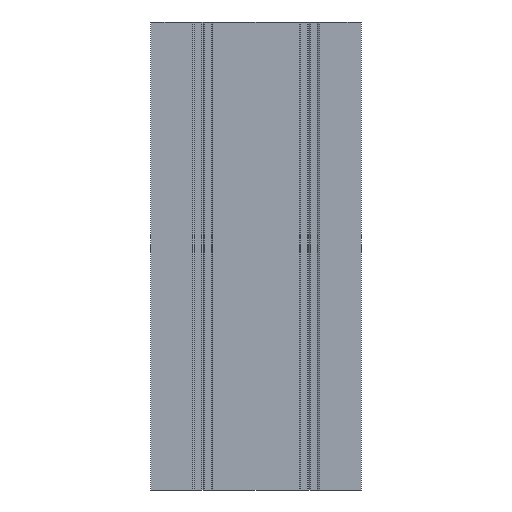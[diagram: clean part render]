
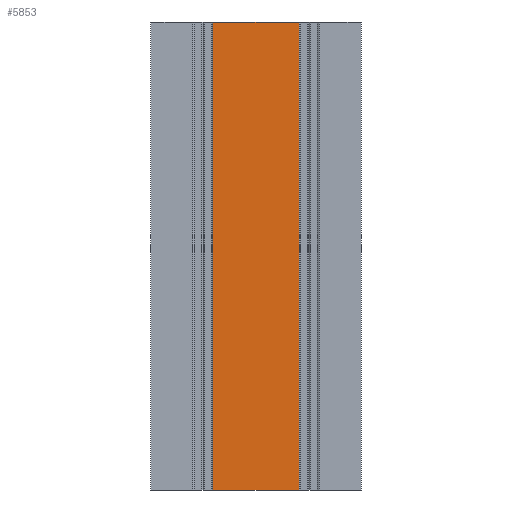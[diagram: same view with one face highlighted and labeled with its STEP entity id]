
A CAD part, left-side view. The second image highlights one B-rep face of the part: STEP entity #5853.
In plain terms, the highlighted planar face has unit normal (-1, 0, 0).
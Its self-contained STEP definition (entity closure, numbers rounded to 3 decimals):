
#352=FACE_OUTER_BOUND('',#644,.T.);
#644=EDGE_LOOP('',(#4944,#4945,#4946,#4947));
#942=LINE('',#8092,#1558);
#1158=LINE('',#8763,#1774);
#1394=LINE('',#9403,#2010);
#1475=LINE('',#9560,#2091);
#1558=VECTOR('',#6468,10.);
#1774=VECTOR('',#6942,10.);
#2010=VECTOR('',#7602,10.);
#2091=VECTOR('',#7835,10.);
#2180=VERTEX_POINT('',#8089);
#2181=VERTEX_POINT('',#8091);
#2506=VERTEX_POINT('',#8760);
#2507=VERTEX_POINT('',#8762);
#2732=EDGE_CURVE('',#2180,#2181,#942,.T.);
#3067=EDGE_CURVE('',#2507,#2506,#1158,.T.);
#3390=EDGE_CURVE('',#2506,#2181,#1394,.T.);
#3471=EDGE_CURVE('',#2180,#2507,#1475,.T.);
#4944=ORIENTED_EDGE('',*,*,#3471,.T.);
#4945=ORIENTED_EDGE('',*,*,#3067,.T.);
#4946=ORIENTED_EDGE('',*,*,#3390,.T.);
#4947=ORIENTED_EDGE('',*,*,#2732,.F.);
#5311=PLANE('',#6366);
#5853=ADVANCED_FACE('',(#352),#5311,.T.);
#6366=AXIS2_PLACEMENT_3D('',#9571,#7852,#7853);
#6468=DIRECTION('',(0.,1.,0.));
#6942=DIRECTION('',(0.,1.,0.));
#7602=DIRECTION('',(0.,0.,-1.));
#7835=DIRECTION('',(0.,0.,1.));
#7852=DIRECTION('center_axis',(-1.,0.,0.));
#7853=DIRECTION('ref_axis',(0.,0.,1.));
#8089=CARTESIAN_POINT('',(-22.5,-18.587,0.));
#8091=CARTESIAN_POINT('',(-22.5,18.587,0.));
#8092=CARTESIAN_POINT('',(-22.5,-22.5,0.));
#8760=CARTESIAN_POINT('',(-22.5,18.587,200.));
#8762=CARTESIAN_POINT('',(-22.5,-18.587,200.));
#8763=CARTESIAN_POINT('',(-22.5,-22.5,200.));
#9403=CARTESIAN_POINT('',(-22.5,18.587,0.));
#9560=CARTESIAN_POINT('',(-22.5,-18.587,0.));
#9571=CARTESIAN_POINT('Origin',(-22.5,-45.,0.));
